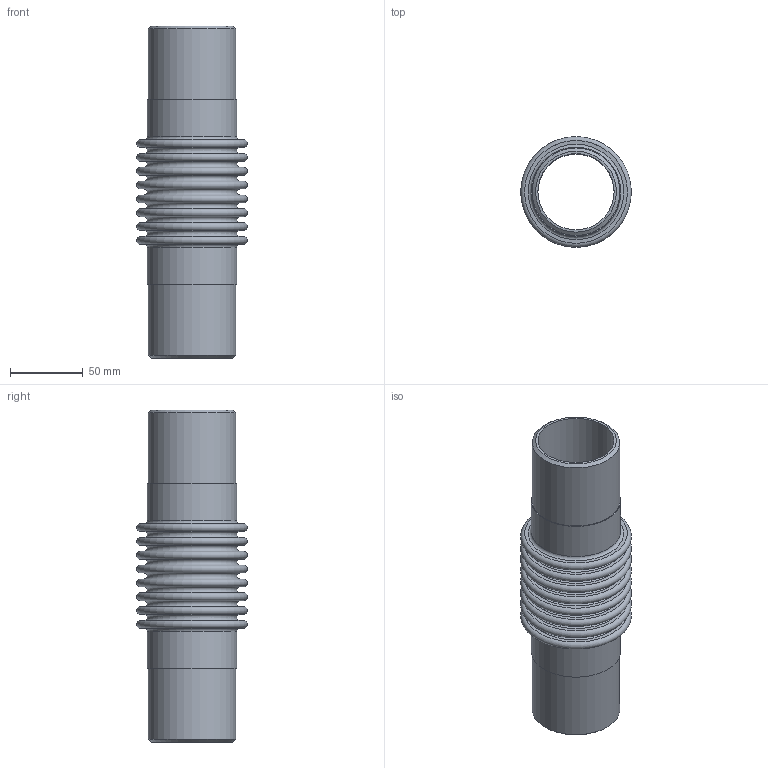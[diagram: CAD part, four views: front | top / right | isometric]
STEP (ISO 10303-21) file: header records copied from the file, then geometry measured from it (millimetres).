
FILE_DESCRIPTION(/* description */ ('EXPANSION JOINT,SINGLE, WELD ENDS,4 INCH NOMINAL'),/* implementation_level */ '2;1');
FILE_NAME(/* name */ 'US-2-300S- WELD-ENDS.stp',/* time_stamp */ '2026-07-28T10:23:19-05:00',/* author */ ('jorgef'),/* organization */ (''),/* preprocessor_version */ 'ST-DEVELOPER v20.1',/* originating_system */ 'Autodesk Inventor 2026',/* authorisation */ '');
FILE_SCHEMA (('AUTOMOTIVE_DESIGN { 1 0 10303 214 3 1 1 }'));
Length unit declared in the file: inch
Products named in the file (3): SINGLE STOCK  BELLOW WELDED ENDS  2 - 300 PSIG; STOCK BELLOW - US-2-8-300S; PIPE- 2 - 300 PSIG
Assembly tree (3 placements, depth 2):
  SINGLE STOCK  BELLOW WELDED ENDS  2 - 300 PSIG
    STOCK BELLOW - US-2-8-300S
    PIPE- 2 - 300 PSIG  x2
Bounding box: 76.2 x 76.2 x 228.6 mm (x, y, z)
Volume: 131827.2 mm3; surface area: 145429.2 mm2
Topology: 5 solids, 5 shells, 86 faces, 132 edges, 89 vertices
Faces by surface type: plane 42, torus 34, cylinder 8, cone 2
Full cylindrical faces by diameter (mm): 52.502 x2, 60.325 x4, 61.544 x2
Entity records: 2033 total; most frequent: DIRECTION 413, CARTESIAN_POINT 293, ORIENTED_EDGE 246, AXIS2_PLACEMENT_3D 203, EDGE_CURVE 123, EDGE_LOOP 121, CIRCLE 116, VERTEX_POINT 82
